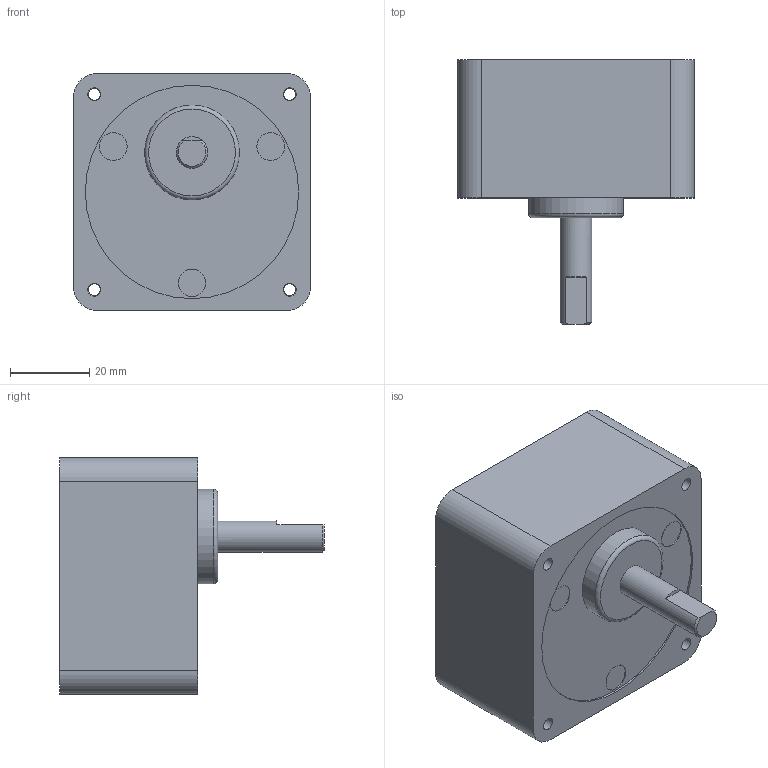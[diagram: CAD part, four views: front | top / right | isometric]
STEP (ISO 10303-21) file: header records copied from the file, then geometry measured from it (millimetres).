
FILE_DESCRIPTION((''),'2;1');
FILE_NAME('\\Servert1600\threepeace\2015homepage\STP\HP-Data_Gearhead_3D_STEP\CM-3.stp','2016-11-17T11:56:59',('Administrator'),(''),'Autodesk Inventor 2010','Autodesk Inventor 2010','');
FILE_SCHEMA(('AUTOMOTIVE_DESIGN { 1 0 10303 214 1 1 1 1 }'));
Length unit declared in the file: millimetre
Products named in the file (1): CM-3-ギアヘッド単品
Bounding box: 60 x 67 x 60 mm (x, y, z)
Volume: 119597.4 mm3; surface area: 18142.4 mm2
Topology: 1 solids, 1 shells, 40 faces, 92 edges, 61 vertices
Faces by surface type: plane 15, bspline 12, cylinder 11, cone 1, torus 1
Full cylindrical faces by diameter (mm): 7 x3, 8 x1, 24 x1, 54 x2
Entity records: 1164 total; most frequent: CARTESIAN_POINT 364, DIRECTION 160, ORIENTED_EDGE 126, EDGE_LOOP 75, AXIS2_PLACEMENT_3D 70, EDGE_CURVE 63, VERTEX_POINT 52, CIRCLE 41
